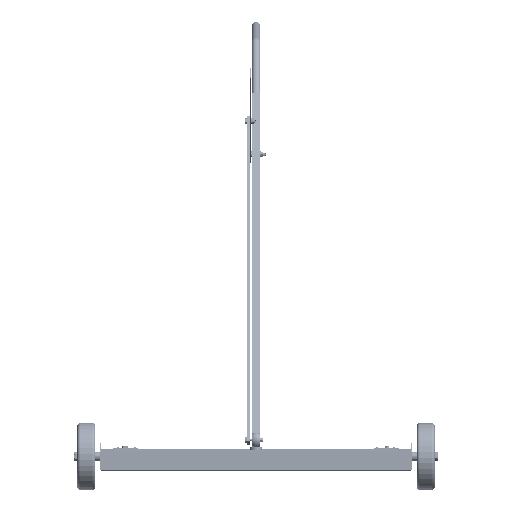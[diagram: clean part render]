
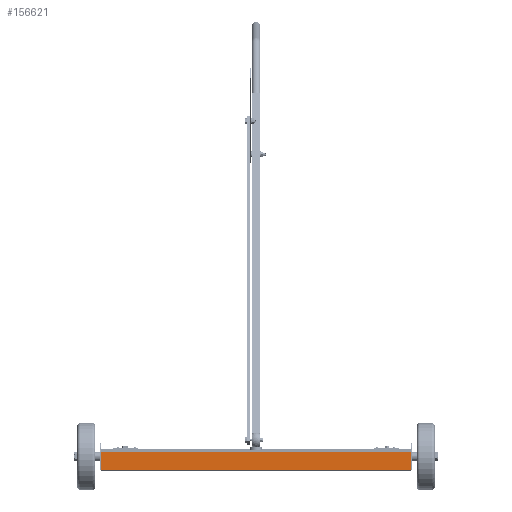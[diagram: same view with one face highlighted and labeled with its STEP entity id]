
A CAD part, top view. The second image highlights one B-rep face of the part: STEP entity #156621.
In plain terms, the highlighted planar face has unit normal (0, 0, 1).
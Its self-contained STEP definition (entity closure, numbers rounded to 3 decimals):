
#9155 = LINE ( 'NONE', #80506, #133942 ) ;
#10020 = VERTEX_POINT ( 'NONE', #119054 ) ;
#12312 = CARTESIAN_POINT ( 'NONE',  ( -13., 0.1, 4. ) ) ;
#23402 = CARTESIAN_POINT ( 'NONE',  ( 13., 0.1, 4. ) ) ;
#27941 = DIRECTION ( 'NONE',  ( 0., -1., 0. ) ) ;
#28507 = FACE_OUTER_BOUND ( 'NONE', #68175, .T. ) ;
#30741 = CARTESIAN_POINT ( 'NONE',  ( 13., 1.6, 4. ) ) ;
#39304 = DIRECTION ( 'NONE',  ( 0., -1., 0. ) ) ;
#47207 = EDGE_CURVE ( 'NONE', #121587, #71308, #108578, .T. ) ;
#51970 = CARTESIAN_POINT ( 'NONE',  ( 13., 0.1, 4. ) ) ;
#58035 = LINE ( 'NONE', #30741, #126969 ) ;
#63879 = ORIENTED_EDGE ( 'NONE', *, *, #167222, .F. ) ;
#68175 = EDGE_LOOP ( 'NONE', ( #150604, #149182, #63879, #97876 ) ) ;
#71308 = VERTEX_POINT ( 'NONE', #168371 ) ;
#75880 = DIRECTION ( 'NONE',  ( -1., 0., 0. ) ) ;
#80506 = CARTESIAN_POINT ( 'NONE',  ( 13., 0.101, 4. ) ) ;
#81687 = DIRECTION ( 'NONE',  ( -1., 0., 0. ) ) ;
#97050 = VECTOR ( 'NONE', #39304, 39.37 ) ;
#97267 = CARTESIAN_POINT ( 'NONE',  ( 13., 0.101, 4. ) ) ;
#97656 = CARTESIAN_POINT ( 'NONE',  ( -13., 1.6, 4. ) ) ;
#97876 = ORIENTED_EDGE ( 'NONE', *, *, #149700, .T. ) ;
#102145 = VERTEX_POINT ( 'NONE', #97267 ) ;
#104733 = PLANE ( 'NONE',  #156124 ) ;
#108578 = LINE ( 'NONE', #12312, #127967 ) ;
#118512 = DIRECTION ( 'NONE',  ( 0., 0., -1. ) ) ;
#119054 = CARTESIAN_POINT ( 'NONE',  ( 13., 1.6, 4. ) ) ;
#121587 = VERTEX_POINT ( 'NONE', #97656 ) ;
#122805 = EDGE_CURVE ( 'NONE', #102145, #71308, #9155, .T. ) ;
#126969 = VECTOR ( 'NONE', #139104, 39.37 ) ;
#127967 = VECTOR ( 'NONE', #27941, 39.37 ) ;
#133660 = LINE ( 'NONE', #51970, #97050 ) ;
#133942 = VECTOR ( 'NONE', #81687, 39.37 ) ;
#139104 = DIRECTION ( 'NONE',  ( -1., 0., 0. ) ) ;
#149182 = ORIENTED_EDGE ( 'NONE', *, *, #122805, .F. ) ;
#149700 = EDGE_CURVE ( 'NONE', #10020, #121587, #58035, .T. ) ;
#150604 = ORIENTED_EDGE ( 'NONE', *, *, #47207, .T. ) ;
#156124 = AXIS2_PLACEMENT_3D ( 'NONE', #23402, #118512, #75880 ) ;
#156621 = ADVANCED_FACE ( 'NONE', ( #28507 ), #104733, .F. ) ;
#167222 = EDGE_CURVE ( 'NONE', #10020, #102145, #133660, .T. ) ;
#168371 = CARTESIAN_POINT ( 'NONE',  ( -13., 0.101, 4. ) ) ;
